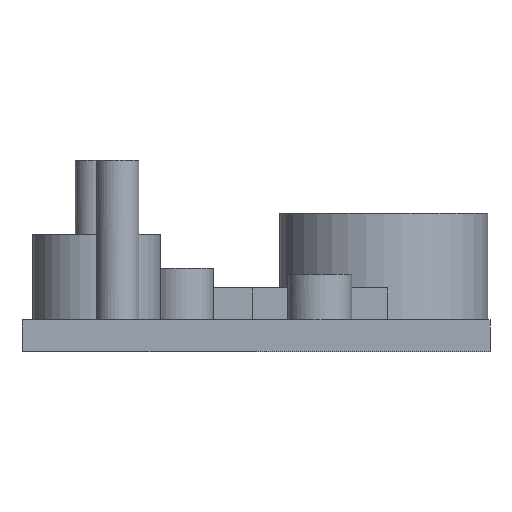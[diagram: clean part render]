
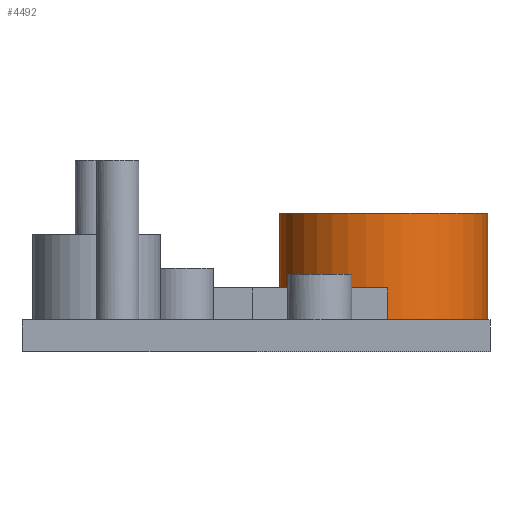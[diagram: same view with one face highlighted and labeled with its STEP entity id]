
A CAD part, front view. The second image highlights one B-rep face of the part: STEP entity #4492.
In plain terms, the highlighted cylindrical face has radius 9.8 mm (diameter 19.6 mm), a full revolution.
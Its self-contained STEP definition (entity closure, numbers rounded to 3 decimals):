
#126 = PLANE('',#127);
#127 = AXIS2_PLACEMENT_3D('',#128,#129,#130);
#128 = CARTESIAN_POINT('',(-51.,-48.,9.));
#129 = DIRECTION('',(0.,0.,1.));
#130 = DIRECTION('',(1.,0.,0.));
#1580 = EDGE_CURVE('',#1581,#1581,#1583,.T.);
#1581 = VERTEX_POINT('',#1582);
#1582 = CARTESIAN_POINT('',(-7.2,-5.,9.));
#1583 = SURFACE_CURVE('',#1584,(#1589,#1596),.PCURVE_S1.);
#1584 = CIRCLE('',#1585,9.8);
#1585 = AXIS2_PLACEMENT_3D('',#1586,#1587,#1588);
#1586 = CARTESIAN_POINT('',(-17.,-5.,9.));
#1587 = DIRECTION('',(0.,0.,1.));
#1588 = DIRECTION('',(1.,0.,0.));
#1589 = PCURVE('',#126,#1590);
#1590 = DEFINITIONAL_REPRESENTATION('',(#1591),#1595);
#1591 = CIRCLE('',#1592,9.8);
#1592 = AXIS2_PLACEMENT_2D('',#1593,#1594);
#1593 = CARTESIAN_POINT('',(34.,43.));
#1594 = DIRECTION('',(1.,0.));
#1595 = ( GEOMETRIC_REPRESENTATION_CONTEXT(2) 
PARAMETRIC_REPRESENTATION_CONTEXT() REPRESENTATION_CONTEXT('2D SPACE',''
  ) );
#1596 = PCURVE('',#1597,#1602);
#1597 = CYLINDRICAL_SURFACE('',#1598,9.8);
#1598 = AXIS2_PLACEMENT_3D('',#1599,#1600,#1601);
#1599 = CARTESIAN_POINT('',(-17.,-5.,9.));
#1600 = DIRECTION('',(-0.,-0.,-1.));
#1601 = DIRECTION('',(1.,0.,0.));
#1602 = DEFINITIONAL_REPRESENTATION('',(#1603),#1607);
#1603 = LINE('',#1604,#1605);
#1604 = CARTESIAN_POINT('',(-0.,0.));
#1605 = VECTOR('',#1606,1.);
#1606 = DIRECTION('',(-1.,0.));
#1607 = ( GEOMETRIC_REPRESENTATION_CONTEXT(2) 
PARAMETRIC_REPRESENTATION_CONTEXT() REPRESENTATION_CONTEXT('2D SPACE',''
  ) );
#4492 = ADVANCED_FACE('',(#4493),#1597,.T.);
#4493 = FACE_BOUND('',#4494,.F.);
#4494 = EDGE_LOOP('',(#4495,#4518,#4545,#4546));
#4495 = ORIENTED_EDGE('',*,*,#4496,.T.);
#4496 = EDGE_CURVE('',#1581,#4497,#4499,.T.);
#4497 = VERTEX_POINT('',#4498);
#4498 = CARTESIAN_POINT('',(-7.2,-5.,19.));
#4499 = SEAM_CURVE('',#4500,(#4504,#4511),.PCURVE_S1.);
#4500 = LINE('',#4501,#4502);
#4501 = CARTESIAN_POINT('',(-7.2,-5.,9.));
#4502 = VECTOR('',#4503,1.);
#4503 = DIRECTION('',(0.,0.,1.));
#4504 = PCURVE('',#1597,#4505);
#4505 = DEFINITIONAL_REPRESENTATION('',(#4506),#4510);
#4506 = LINE('',#4507,#4508);
#4507 = CARTESIAN_POINT('',(-0.,0.));
#4508 = VECTOR('',#4509,1.);
#4509 = DIRECTION('',(-0.,-1.));
#4510 = ( GEOMETRIC_REPRESENTATION_CONTEXT(2) 
PARAMETRIC_REPRESENTATION_CONTEXT() REPRESENTATION_CONTEXT('2D SPACE',''
  ) );
#4511 = PCURVE('',#1597,#4512);
#4512 = DEFINITIONAL_REPRESENTATION('',(#4513),#4517);
#4513 = LINE('',#4514,#4515);
#4514 = CARTESIAN_POINT('',(-6.283,0.));
#4515 = VECTOR('',#4516,1.);
#4516 = DIRECTION('',(-0.,-1.));
#4517 = ( GEOMETRIC_REPRESENTATION_CONTEXT(2) 
PARAMETRIC_REPRESENTATION_CONTEXT() REPRESENTATION_CONTEXT('2D SPACE',''
  ) );
#4518 = ORIENTED_EDGE('',*,*,#4519,.T.);
#4519 = EDGE_CURVE('',#4497,#4497,#4520,.T.);
#4520 = SURFACE_CURVE('',#4521,(#4526,#4533),.PCURVE_S1.);
#4521 = CIRCLE('',#4522,9.8);
#4522 = AXIS2_PLACEMENT_3D('',#4523,#4524,#4525);
#4523 = CARTESIAN_POINT('',(-17.,-5.,19.));
#4524 = DIRECTION('',(0.,0.,1.));
#4525 = DIRECTION('',(1.,0.,0.));
#4526 = PCURVE('',#1597,#4527);
#4527 = DEFINITIONAL_REPRESENTATION('',(#4528),#4532);
#4528 = LINE('',#4529,#4530);
#4529 = CARTESIAN_POINT('',(-0.,-10.));
#4530 = VECTOR('',#4531,1.);
#4531 = DIRECTION('',(-1.,0.));
#4532 = ( GEOMETRIC_REPRESENTATION_CONTEXT(2) 
PARAMETRIC_REPRESENTATION_CONTEXT() REPRESENTATION_CONTEXT('2D SPACE',''
  ) );
#4533 = PCURVE('',#4534,#4539);
#4534 = PLANE('',#4535);
#4535 = AXIS2_PLACEMENT_3D('',#4536,#4537,#4538);
#4536 = CARTESIAN_POINT('',(-17.,-5.,19.));
#4537 = DIRECTION('',(0.,0.,1.));
#4538 = DIRECTION('',(1.,0.,-0.));
#4539 = DEFINITIONAL_REPRESENTATION('',(#4540),#4544);
#4540 = CIRCLE('',#4541,9.8);
#4541 = AXIS2_PLACEMENT_2D('',#4542,#4543);
#4542 = CARTESIAN_POINT('',(0.,0.));
#4543 = DIRECTION('',(1.,0.));
#4544 = ( GEOMETRIC_REPRESENTATION_CONTEXT(2) 
PARAMETRIC_REPRESENTATION_CONTEXT() REPRESENTATION_CONTEXT('2D SPACE',''
  ) );
#4545 = ORIENTED_EDGE('',*,*,#4496,.F.);
#4546 = ORIENTED_EDGE('',*,*,#1580,.F.);
